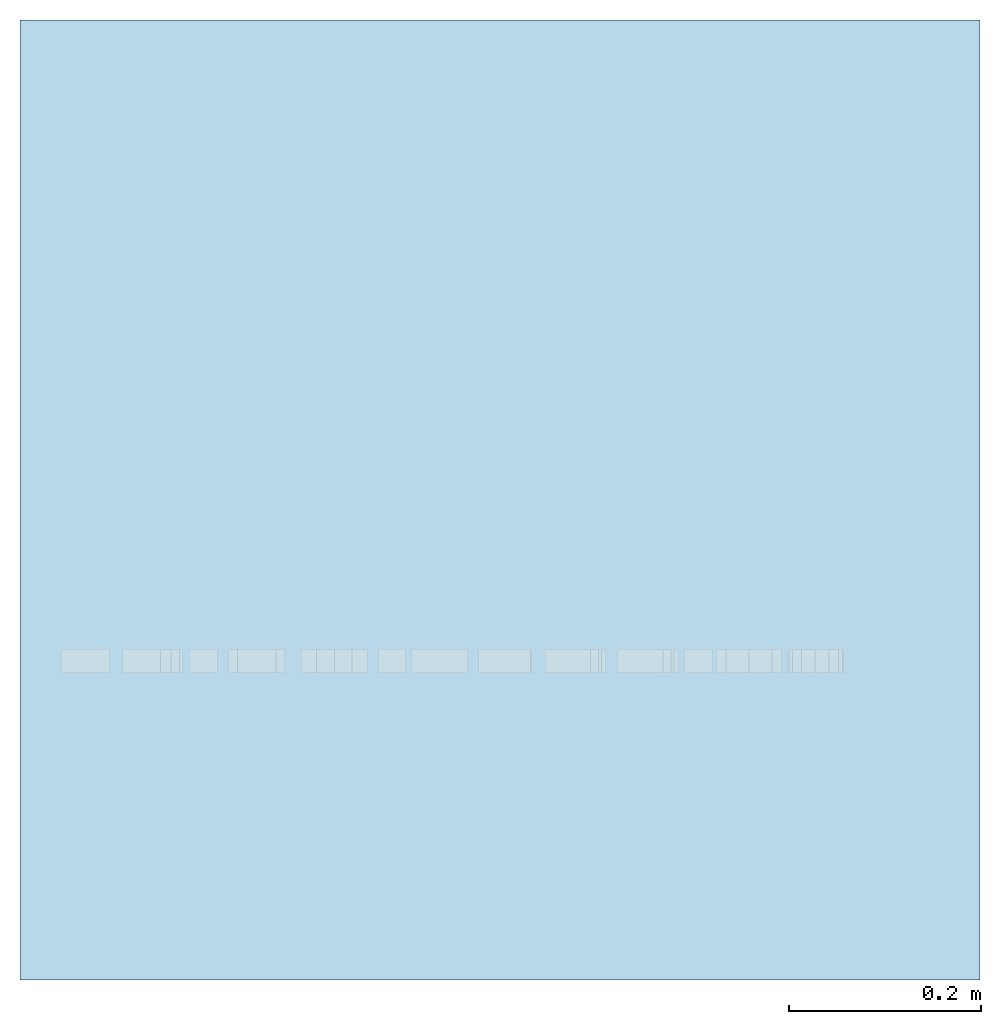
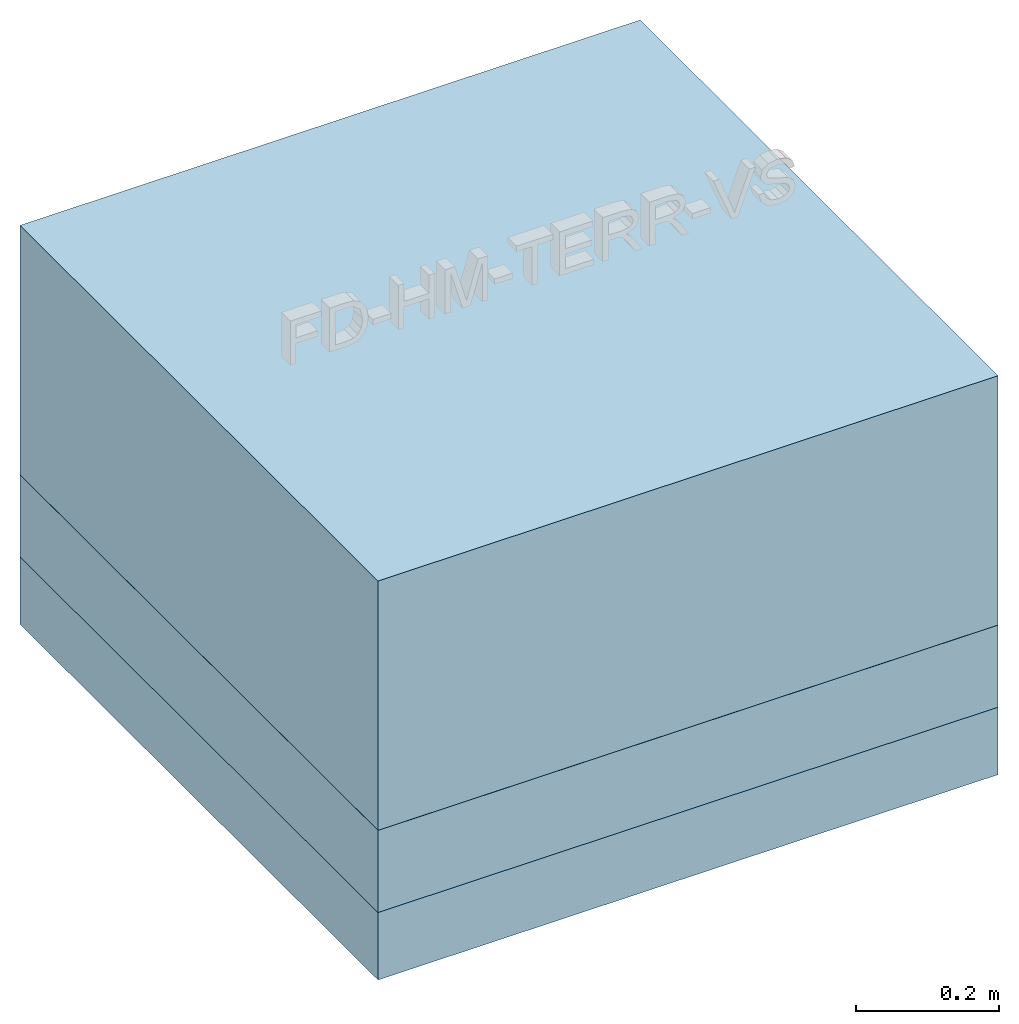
# Not in any storey, part 1 of 2: 3 slabs, 1 element without a shape of its own.
"""IFC4 model written with IfcOpenShell, lengths in metres."""

from ifc_helpers import new_model, entity, si_unit, converted_unit, derived_unit, direction, frame, origin, place, context, subcontext, project, spatial, indexed_curve, outline, extrude, material, constituent, constituent_set, type_object, element, aggregate, save


model = new_model("IFC4")

# Units and contexts
model_context = context("Model", 3, precision=1e-05, world=origin(), true_north=direction((6.123031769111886e-17, 1.0)))
body_context = subcontext(model_context, "Body", "Model", "MODEL_VIEW")
ifc_project = project(units=[si_unit("LENGTHUNIT", "METRE"), si_unit("AREAUNIT", "SQUARE_METRE"), si_unit("VOLUMEUNIT", "CUBIC_METRE"), converted_unit("PLANEANGLEUNIT", "DEGREE", entity("IfcRatioMeasure", 0.017453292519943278), si_unit("PLANEANGLEUNIT", "RADIAN"), dimensions=[0, 0, 0, 0, 0, 0, 0]), si_unit("MASSUNIT", "GRAM", prefix="KILO"), derived_unit("MASSDENSITYUNIT", [(si_unit("MASSUNIT", "GRAM", prefix="KILO"), 1), (si_unit("LENGTHUNIT", "METRE"), -3)]), derived_unit("IONCONCENTRATIONUNIT", [(si_unit("MASSUNIT", "GRAM", prefix="KILO"), 1), (si_unit("LENGTHUNIT", "METRE"), -3)]), derived_unit("MOMENTOFINERTIAUNIT", [(si_unit("LENGTHUNIT", "METRE"), 4)]), si_unit("TIMEUNIT", "SECOND"), si_unit("FREQUENCYUNIT", "HERTZ"), si_unit("THERMODYNAMICTEMPERATUREUNIT", "DEGREE_CELSIUS"), derived_unit("THERMALTRANSMITTANCEUNIT", [(si_unit("MASSUNIT", "GRAM", prefix="KILO"), 1), (si_unit("THERMODYNAMICTEMPERATUREUNIT", "KELVIN"), -1), (si_unit("TIMEUNIT", "SECOND"), -3)]), derived_unit("THERMALCONDUCTANCEUNIT", [(si_unit("MASSUNIT", "GRAM", prefix="KILO"), 1), (si_unit("THERMODYNAMICTEMPERATUREUNIT", "KELVIN"), -1), (si_unit("TIMEUNIT", "SECOND"), -3), (si_unit("LENGTHUNIT", "METRE"), 1)]), derived_unit("VOLUMETRICFLOWRATEUNIT", [(si_unit("LENGTHUNIT", "METRE"), 3), (si_unit("TIMEUNIT", "SECOND"), -1)]), derived_unit("MASSFLOWRATEUNIT", [(si_unit("MASSUNIT", "GRAM", prefix="KILO"), 1), (si_unit("TIMEUNIT", "SECOND"), -1)]), derived_unit("ROTATIONALFREQUENCYUNIT", [(si_unit("TIMEUNIT", "SECOND"), -1)]), si_unit("ELECTRICCURRENTUNIT", "AMPERE"), si_unit("ELECTRICVOLTAGEUNIT", "VOLT"), si_unit("POWERUNIT", "WATT"), si_unit("FORCEUNIT", "NEWTON", prefix="KILO"), si_unit("ILLUMINANCEUNIT", "LUX"), si_unit("LUMINOUSFLUXUNIT", "LUMEN"), si_unit("LUMINOUSINTENSITYUNIT", "CANDELA"), derived_unit("USERDEFINED", [(si_unit("MASSUNIT", "GRAM", prefix="KILO"), -1), (si_unit("LENGTHUNIT", "METRE"), -2), (si_unit("TIMEUNIT", "SECOND"), 3), (si_unit("LUMINOUSFLUXUNIT", "LUMEN"), 1)]), derived_unit("USERDEFINED", [(si_unit("MASSUNIT", "GRAM", prefix="KILO"), 1), (si_unit("TIMEUNIT", "SECOND"), -3), (si_unit("LENGTHUNIT", "METRE"), 3), (si_unit("ELECTRICCURRENTUNIT", "AMPERE"), -2)]), derived_unit("SOUNDPOWERUNIT", [(si_unit("MASSUNIT", "GRAM", prefix="KILO"), 1), (si_unit("TIMEUNIT", "SECOND"), -3), (si_unit("LENGTHUNIT", "METRE"), 2)]), derived_unit("SOUNDPRESSUREUNIT", [(si_unit("MASSUNIT", "GRAM", prefix="KILO"), 1), (si_unit("LENGTHUNIT", "METRE"), -1), (si_unit("TIMEUNIT", "SECOND"), -2)]), derived_unit("LINEARVELOCITYUNIT", [(si_unit("LENGTHUNIT", "METRE"), 1), (si_unit("TIMEUNIT", "SECOND"), -1)]), si_unit("PRESSUREUNIT", "PASCAL"), derived_unit("USERDEFINED", [(si_unit("MASSUNIT", "GRAM", prefix="KILO"), 1), (si_unit("LENGTHUNIT", "METRE"), -2), (si_unit("TIMEUNIT", "SECOND"), -2)]), derived_unit("LINEARFORCEUNIT", [(si_unit("MASSUNIT", "GRAM", prefix="KILO"), 1), (si_unit("TIMEUNIT", "SECOND"), -2)]), derived_unit("PLANARFORCEUNIT", [(si_unit("MASSUNIT", "GRAM", prefix="KILO"), 1), (si_unit("LENGTHUNIT", "METRE"), -1), (si_unit("TIMEUNIT", "SECOND"), -2)]), derived_unit("SPECIFICHEATCAPACITYUNIT", [(si_unit("THERMODYNAMICTEMPERATUREUNIT", "KELVIN"), -1), (si_unit("LENGTHUNIT", "METRE"), 2), (si_unit("TIMEUNIT", "SECOND"), -2)]), derived_unit("HEATINGVALUEUNIT", [(si_unit("LENGTHUNIT", "METRE"), 2), (si_unit("TIMEUNIT", "SECOND"), -2)]), derived_unit("VAPORPERMEABILITYUNIT", [(si_unit("LENGTHUNIT", "METRE"), -1), (si_unit("TIMEUNIT", "SECOND"), 1)]), derived_unit("DYNAMICVISCOSITYUNIT", [(si_unit("MASSUNIT", "GRAM", prefix="KILO"), 1), (si_unit("TIMEUNIT", "SECOND"), -1), (si_unit("LENGTHUNIT", "METRE"), -1)]), derived_unit("THERMALEXPANSIONCOEFFICIENTUNIT", [(si_unit("THERMODYNAMICTEMPERATUREUNIT", "KELVIN"), -1)]), derived_unit("MODULUSOFELASTICITYUNIT", [(si_unit("MASSUNIT", "GRAM", prefix="KILO"), 1), (si_unit("LENGTHUNIT", "METRE"), -1), (si_unit("TIMEUNIT", "SECOND"), -2)]), derived_unit("ISOTHERMALMOISTURECAPACITYUNIT", [(si_unit("LENGTHUNIT", "METRE"), 3), (si_unit("MASSUNIT", "GRAM", prefix="KILO"), -1)]), derived_unit("MOISTUREDIFFUSIVITYUNIT", [(si_unit("TIMEUNIT", "SECOND"), -1), (si_unit("LENGTHUNIT", "METRE"), 2)])], contexts=[model_context])

# Site
site_placement = place(None, origin())
site = spatial("IfcSite", under=ifc_project, at=site_placement, Name="Default", CompositionType="ELEMENT")

# Assembly, slabs
ifc_material_1 = material(Name="fbim_12400515_AT_025_Vollholz_Bretter_Fichte")
ifc_constituent_1 = constituent(ifc_material_1, Name="fbim_12400515_AT_025_Vollholz_Bretter_Fichte")
ifc_material_2 = material(Name="fbim_12400520_AT_001_Vollholz_Lattung_Fichte")
ifc_constituent_2 = constituent(ifc_material_2, Name="fbim_12400520_AT_001_Vollholz_Lattung_Fichte")
ifc_material_3 = material(Name="fbim_14100590_AT_001_Luftschicht")
ifc_constituent_3 = constituent(ifc_material_3, Name="fbim_14100590_AT_001_Luftschicht")
ifc_material_4 = material(Name="fbim_16051005_AT_225_Estrichbeton_E225")
ifc_constituent_4 = constituent(ifc_material_4, Name="fbim_16051005_AT_225_Estrichbeton_E225")
ifc_material_5 = material(Name="fbim_10200515_AT_001_Schutzvlies")
ifc_constituent_5 = constituent(ifc_material_5, Name="fbim_10200515_AT_001_Schutzvlies")
ifc_material_6 = material(Name="OENORM A6240 Dämmstoff (Hart)")
ifc_constituent_6 = constituent(ifc_material_6, Name="OENORM A6240 Dämmstoff (Hart)")
ifc_constituent_set_1 = constituent_set(constituents=[ifc_constituent_1, ifc_constituent_2, ifc_constituent_3, ifc_constituent_4, ifc_constituent_5, ifc_constituent_6], Name="Geschossdecke:fbimSg_Slab_dp_INH_vis_at_NTR_natuREbuilt_FD-HM-TERR-VS_GK3_o_44cm")
assembly_placement = place(site_placement, origin())
assembly = element("IfcElementAssembly", 1, at=assembly_placement, inside=site, material=ifc_constituent_set_1, Name="Geschossdecken Baugruppe:fbimSg_Roof_bc_WOD_vis_at_NTR_natuREbuilt_FD-HM-TERR-VS_GK3_68cm", ObjectType="Geschossdecken Baugruppe:fbimSg_Roof_bc_WOD_vis_at_NTR_natuREbuilt_FD-HM-TERR-VS_GK3_68cm", AssemblyPlace="NOTDEFINED", PredefinedType="USERDEFINED")
slab_type_1 = type_object("IfcSlabType", Name="Geschossdecke:fbimSg_Slab_dp_INH_vis_at_NTR_natuREbuilt_FD-HM-TERR-VS_GK3_o_44cm", PredefinedType="FLOOR", material=ifc_constituent_set_1)
slab_1_placement = place(assembly_placement, origin())
slab_1 = element("IfcSlab", 2, at=slab_1_placement, type_object=slab_type_1, Name="Geschossdecke:fbimSg_Slab_dp_INH_vis_at_NTR_natuREbuilt_FD-HM-TERR-VS_GK3_o_44cm", ObjectType="Geschossdecke:fbimSg_Slab_dp_INH_vis_at_NTR_natuREbuilt_FD-HM-TERR-VS_GK3_o_44cm", PredefinedType="FLOOR", context=body_context, shape_type="SweptSolid", body=[
    extrude(outline(indexed_curve([(-0.5, -0.49999999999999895), (0.5, -0.49999999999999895), (0.5, 0.49999999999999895), (-0.5, 0.49999999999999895), (-0.5, -0.49999999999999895)], self_intersect=False)), frame((2.876209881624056, 43.0146922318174, 1.909831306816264), z_axis=(0.0, 0.0, 1.0), x_axis=(-1.0, 0.0, 0.0)), (0.0, 0.0, 1.0), 0.026000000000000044),
    extrude(outline(indexed_curve([(-0.5, -0.49999999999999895), (0.5, -0.49999999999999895), (0.5, 0.49999999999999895), (-0.5, 0.49999999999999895), (-0.5, -0.49999999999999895)], self_intersect=False)), frame((2.876209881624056, 43.0146922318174, 1.865831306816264), z_axis=(0.0, 0.0, 1.0), x_axis=(-1.0, 0.0, 0.0)), (0.0, 0.0, 1.0), 0.04400000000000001),
    extrude(outline(indexed_curve([(-0.5, -0.49999999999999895), (0.5, -0.49999999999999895), (0.5, 0.49999999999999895), (-0.5, 0.49999999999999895), (-0.5, -0.49999999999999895)], self_intersect=False)), frame((2.876209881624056, 43.0146922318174, 1.8538313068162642), z_axis=(0.0, 0.0, 1.0), x_axis=(-1.0, 0.0, 0.0)), (0.0, 0.0, 1.0), 0.01199999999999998),
    extrude(outline(indexed_curve([(-0.5, -0.49999999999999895), (0.5, -0.49999999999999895), (0.5, 0.49999999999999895), (-0.5, 0.49999999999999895), (-0.5, -0.49999999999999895)], self_intersect=False)), frame((2.876209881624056, 43.0146922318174, 1.8138313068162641), z_axis=(0.0, 0.0, 1.0), x_axis=(-1.0, 0.0, 0.0)), (0.0, 0.0, 1.0), 0.03999999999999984),
    extrude(outline(indexed_curve([(-0.5, -0.49999999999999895), (0.5, -0.49999999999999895), (0.5, 0.49999999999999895), (-0.5, 0.49999999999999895), (-0.5, -0.49999999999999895)], self_intersect=False)), frame((2.876209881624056, 43.0146922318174, 1.810631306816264), z_axis=(0.0, 0.0, 1.0), x_axis=(-1.0, 0.0, 0.0)), (0.0, 0.0, 1.0), 0.0032000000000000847),
    extrude(outline(indexed_curve([(-0.5, -0.49999999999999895), (0.5, -0.49999999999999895), (0.5, 0.49999999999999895), (-0.5, 0.49999999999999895), (-0.5, -0.49999999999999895)], self_intersect=False)), frame((2.876209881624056, 43.0146922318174, 1.5106313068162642), z_axis=(0.0, 0.0, 1.0), x_axis=(-1.0, 0.0, 0.0)), (0.0, 0.0, 1.0), 0.30000000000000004),
])
ifc_material_7 = material(Name="fbim_12400520_AT_Konstruktionsvollholz_Fichte")
slab_type_2 = type_object("IfcSlabType", Name="Geschossdecke:fbimSg_Slab_sb_CNR_vis_at_NTR_natuREbuilt_FD-HM-TERR-VS_GK3_k_14", PredefinedType="FLOOR", material=ifc_material_7)
slab_2_placement = place(assembly_placement, origin())
slab_2 = element("IfcSlab", 3, at=slab_2_placement, type_object=slab_type_2, material=ifc_material_7, Name="Geschossdecke:fbimSg_Slab_sb_CNR_vis_at_NTR_natuREbuilt_FD-HM-TERR-VS_GK3_k_14", ObjectType="Geschossdecke:fbimSg_Slab_sb_CNR_vis_at_NTR_natuREbuilt_FD-HM-TERR-VS_GK3_k_14", PredefinedType="FLOOR", context=body_context, shape_type="SweptSolid", body=[
    extrude(outline(indexed_curve([(-0.49999999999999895, -0.4999999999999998), (0.49999999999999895, -0.4999999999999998), (0.49999999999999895, 0.5), (-0.49999999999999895, 0.5), (-0.49999999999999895, -0.4999999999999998)], self_intersect=False)), frame((2.876209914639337, 43.0146922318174, 1.5106312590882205), z_axis=(0.0, 0.0, -1.0), x_axis=(0.0, 1.0, 0.0)), (0.0, 0.0, 1.0), 0.14000000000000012),
])
ifc_constituent_7 = constituent(ifc_material_3, Name="fbim_14100590_AT_001_Luftschicht")
ifc_material_8 = material(Name="OENORM A6240 Dämmstoff (Weich)")
ifc_constituent_8 = constituent(ifc_material_8, Name="OENORM A6240 Dämmstoff (Weich)")
ifc_material_9 = material(Name="fbim_16101505_AT_Gipsfaserplatte", Category="Gipsputz")
ifc_constituent_9 = constituent(ifc_material_9, Name="fbim_16101505_AT_Gipsfaserplatte", Category="Gipsputz")
ifc_constituent_10 = constituent(ifc_material_9, Name="fbim_16101505_AT_Gipsfaserplatte (2)", Category="Gipsputz")
ifc_constituent_set_2 = constituent_set(constituents=[ifc_constituent_7, ifc_constituent_8, ifc_constituent_9, ifc_constituent_10], Name="Geschossdecke:fbimSg_Floor_dp_INS_vis_at_NTR_natuREbuilt_FD-HM-TERR-VS_GK3_u_11cm")
slab_type_3 = type_object("IfcSlabType", Name="Geschossdecke:fbimSg_Floor_dp_INS_vis_at_NTR_natuREbuilt_FD-HM-TERR-VS_GK3_u_11cm", PredefinedType="FLOOR", material=ifc_constituent_set_2)
slab_3_placement = place(assembly_placement, origin())
slab_3 = element("IfcSlab", 4, at=slab_3_placement, type_object=slab_type_3, material=ifc_constituent_set_2, Name="Geschossdecke:fbimSg_Floor_dp_INS_vis_at_NTR_natuREbuilt_FD-HM-TERR-VS_GK3_u_11cm", ObjectType="Geschossdecke:fbimSg_Floor_dp_INS_vis_at_NTR_natuREbuilt_FD-HM-TERR-VS_GK3_u_11cm", PredefinedType="FLOOR", context=body_context, shape_type="SweptSolid", body=[
    extrude(outline(indexed_curve([(-0.5, -0.5000000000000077), (0.4999999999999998, -0.49999999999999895), (0.5, 0.4999999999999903), (-0.5, 0.49999999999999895), (-0.5, -0.5000000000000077)], self_intersect=False)), frame((2.876209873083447, 43.01469223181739, 1.3306312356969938), z_axis=(0.0, 0.0, 1.0), x_axis=(-1.0, 0.0, 0.0)), (0.0, 0.0, 1.0), 0.04000000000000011),
    extrude(outline(indexed_curve([(-0.5, -0.4999999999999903), (0.4999999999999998, -0.49999999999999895), (0.4999999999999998, 0.49999999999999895), (-0.5, 0.49999999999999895), (-0.5, -0.4999999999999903)], self_intersect=False)), frame((2.876209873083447, 43.0146922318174, 1.2806312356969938), z_axis=(0.0, 0.0, 1.0), x_axis=(-1.0, 0.0, 0.0)), (0.0, 0.0, 1.0), 0.05),
    extrude(outline(indexed_curve([(-0.5, -0.49999999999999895), (0.4999999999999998, -0.49999999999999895), (0.4999999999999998, 0.49999999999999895), (-0.5, 0.49999999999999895), (-0.5, -0.49999999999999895)], self_intersect=False)), frame((2.876209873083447, 43.0146922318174, 1.268131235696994), z_axis=(0.0, 0.0, 1.0), x_axis=(-1.0, 0.0, 0.0)), (0.0, 0.0, 1.0), 0.012499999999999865),
    extrude(outline(indexed_curve([(-0.5, -0.49999999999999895), (0.4999999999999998, -0.49999999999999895), (0.4999999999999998, 0.49999999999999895), (-0.5, 0.49999999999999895), (-0.5, -0.49999999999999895)], self_intersect=False)), frame((2.876209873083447, 43.0146922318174, 1.2556312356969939), z_axis=(0.0, 0.0, 1.0), x_axis=(-1.0, 0.0, 0.0)), (0.0, 0.0, 1.0), 0.012500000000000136),
])
aggregate(assembly, [slab_1, slab_2, slab_3])

save(model, "model.ifc")
